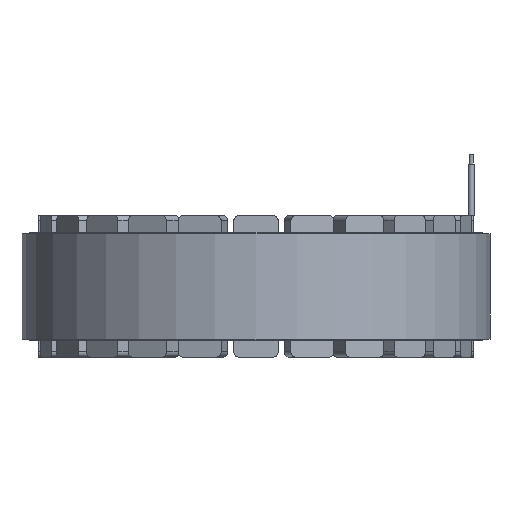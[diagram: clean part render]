
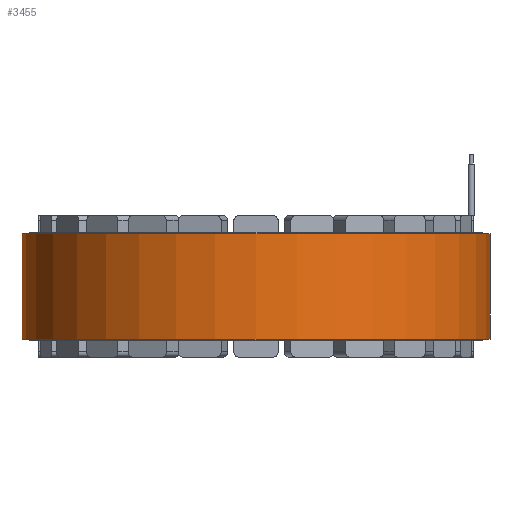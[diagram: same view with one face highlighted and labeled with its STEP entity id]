
A CAD part, front view. The second image highlights one B-rep face of the part: STEP entity #3455.
In plain terms, the highlighted cylindrical face has radius 100 mm (diameter 200 mm), a full revolution.
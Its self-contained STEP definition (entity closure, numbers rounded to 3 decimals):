
#52 = AXIS2_PLACEMENT_3D ( 'NONE', #21537, #21426, #6354 ) ;
#1961 = CARTESIAN_POINT ( 'NONE',  ( -100., 0., 0.5 ) ) ;
#2497 = CARTESIAN_POINT ( 'NONE',  ( 0., 0., 46. ) ) ;
#3455 = ADVANCED_FACE ( 'NONE', ( #6632, #19925 ), #21505, .T. ) ;
#3859 = VERTEX_POINT ( 'NONE', #1961 ) ;
#4501 = EDGE_CURVE ( 'NONE', #9337, #9337, #10340, .T. ) ;
#4543 = CARTESIAN_POINT ( 'NONE',  ( 0., 0., 0.5 ) ) ;
#6354 = DIRECTION ( 'NONE',  ( 1., 0., 0. ) ) ;
#6632 = FACE_OUTER_BOUND ( 'NONE', #8873, .T. ) ;
#6976 = EDGE_LOOP ( 'NONE', ( #21863 ) ) ;
#8092 = DIRECTION ( 'NONE',  ( 0., 0., -1. ) ) ;
#8667 = ORIENTED_EDGE ( 'NONE', *, *, #15539, .F. ) ;
#8873 = EDGE_LOOP ( 'NONE', ( #8667 ) ) ;
#9337 = VERTEX_POINT ( 'NONE', #16072 ) ;
#10291 = AXIS2_PLACEMENT_3D ( 'NONE', #2497, #8092, #13076 ) ;
#10340 = CIRCLE ( 'NONE', #52, 100. ) ;
#10891 = CIRCLE ( 'NONE', #16533, 100. ) ;
#11175 = DIRECTION ( 'NONE',  ( -1., 0., 0. ) ) ;
#13076 = DIRECTION ( 'NONE',  ( -1., 0., 0. ) ) ;
#15539 = EDGE_CURVE ( 'NONE', #3859, #3859, #10891, .T. ) ;
#16072 = CARTESIAN_POINT ( 'NONE',  ( 100., 0., 45.5 ) ) ;
#16533 = AXIS2_PLACEMENT_3D ( 'NONE', #4543, #21363, #11175 ) ;
#19925 = FACE_OUTER_BOUND ( 'NONE', #6976, .T. ) ;
#21363 = DIRECTION ( 'NONE',  ( 0., 0., -1. ) ) ;
#21426 = DIRECTION ( 'NONE',  ( 0., 0., 1. ) ) ;
#21505 = CYLINDRICAL_SURFACE ( 'NONE', #10291, 100. ) ;
#21537 = CARTESIAN_POINT ( 'NONE',  ( 0., 0., 45.5 ) ) ;
#21863 = ORIENTED_EDGE ( 'NONE', *, *, #4501, .F. ) ;
